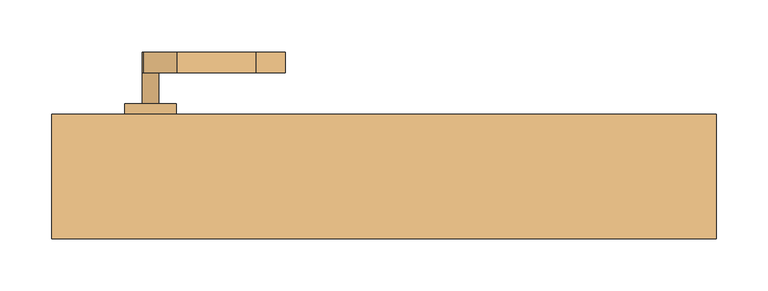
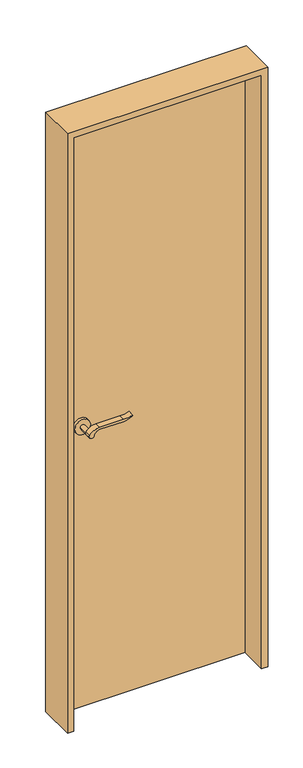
"""IFC4 building model written with IfcOpenShell, lengths in millimetres: door geometry, 木製_片開き_フラッシュ : WD-2 w600h2000."""

from ifc_helpers import new_model, si_unit, point, frame, frame_2d, origin, origin_with_axes, place, context, project, spatial, polyline, circle_curve, trimmed, segment, composite_curve, outline, extrude, source, transform, mapped, element, save


def door_a3db7c72(model_context):
    return source(origin(), model_context, "Body", "SweptSolid", [
        extrude(outline(composite_curve([segment(trimmed(circle_curve(frame_2d((950.0, -225.0)), 8.0), [point((954.6523287, -231.5081363))], [point((950.0, -217.0))], False, "CARTESIAN"), True, "CONTINUOUS"), segment(trimmed(circle_curve(frame_2d((944.8738613, -199.6138099)), 18.1261387), [point((950.0, -217.0))], [point((963.0, -199.6138099))], True, "CARTESIAN"), True, "CONTINUOUS"), segment(polyline([(963.0, -199.6138099), (963.0, -123.3564091)]), True, "CONTINUOUS"), segment(trimmed(circle_curve(frame_2d((1022.2709207, -126.9396612)), 59.3791355), [point((963.0, -123.3564091))], [point((972.2135558, -95.0))], False, "CARTESIAN"), True, "CONTINUOUS"), segment(polyline([(972.2135558, -95.0), (975.0, -95.0)]), True, "CONTINUOUS"), segment(trimmed(circle_curve(frame_2d((1053.2850638, -123.4227909)), 83.2850902), [point((975.0, -95.0))], [point((970.0, -123.3564091))], True, "CARTESIAN"), True, "CONTINUOUS"), segment(polyline([(970.0, -123.3564091), (970.0, -199.6325667)]), True, "CONTINUOUS"), segment(trimmed(circle_curve(frame_2d((932.7555521, -201.3324871)), 37.2832219), [point((970.0, -199.6325667))], [point((954.6523287, -231.5081363))], False, "CARTESIAN"), True, "CONTINUOUS")], self_intersect=False)), frame((0.0, 100.0, 0.0), z_axis=(0.0, 1.0, 0.0), x_axis=(0.0, 0.0, 1.0)), (0.0, 0.0, 1.0), 20.0),
        extrude(outline(composite_curve([segment(trimmed(circle_curve(frame_2d((944.8738682, -199.6138122)), 18.1261318), [point((949.9999903, -217.0))], [point((963.0, -199.6138122))], True, "CARTESIAN"), True, "CONTINUOUS"), segment(polyline([(963.0, -199.6138122), (963.0, -123.3564091)]), True, "CONTINUOUS"), segment(trimmed(circle_curve(frame_2d((1022.2709207, -126.9396612)), 59.3791355), [point((963.0, -123.3564091))], [point((972.2135558, -95.0))], False, "CARTESIAN"), True, "CONTINUOUS"), segment(polyline([(972.2135558, -95.0), (975.0, -95.0)]), True, "CONTINUOUS"), segment(trimmed(circle_curve(frame_2d((1053.2850638, -123.4227909)), 83.2850902), [point((975.0, -95.0))], [point((970.0, -123.3564091))], True, "CARTESIAN"), True, "CONTINUOUS"), segment(polyline([(970.0, -123.3564091), (970.0, -199.6325667)]), True, "CONTINUOUS"), segment(trimmed(circle_curve(frame_2d((932.7555521, -201.3324871)), 37.2832219), [point((970.0, -199.6325667))], [point((954.6523287, -231.5081363))], False, "CARTESIAN"), True, "CONTINUOUS"), segment(trimmed(circle_curve(frame_2d((950.0, -225.0)), 8.0), [point((954.6523287, -231.5081363))], [point((949.9999903, -217.0))], False, "CARTESIAN"), True, "CONTINUOUS")], self_intersect=False)), frame((0.0, -30.0, 0.0), z_axis=(0.0, 1.0, 0.0), x_axis=(0.0, 0.0, 1.0)), (0.0, 0.0, 1.0), 20.0),
        extrude(outline(composite_curve([segment(trimmed(circle_curve(frame_2d((950.0, -225.0)), 8.0), [point((950.0, -233.0))], [point((950.0, -217.0))], False, "CARTESIAN"), True, "CONTINUOUS"), segment(trimmed(circle_curve(frame_2d((950.0, -225.0)), 8.0), [point((950.0, -217.0))], [point((950.0, -233.0))], False, "CARTESIAN"), True, "CONTINUOUS")], self_intersect=False)), frame((0.0, 70.0, 0.0), z_axis=(0.0, 1.0, 0.0), x_axis=(0.0, 0.0, 1.0)), (0.0, 0.0, 1.0), 30.0),
        extrude(outline(composite_curve([segment(trimmed(circle_curve(frame_2d((950.0, -225.0)), 8.0), [point((950.0, -233.0))], [point((950.0, -217.0))], False, "CARTESIAN"), True, "CONTINUOUS"), segment(trimmed(circle_curve(frame_2d((950.0, -225.0)), 8.0), [point((950.0, -217.0))], [point((950.0, -233.0))], False, "CARTESIAN"), True, "CONTINUOUS")], self_intersect=False)), frame((0.0, -10.0, 0.0), z_axis=(0.0, 1.0, 0.0), x_axis=(0.0, 0.0, 1.0)), (0.0, 0.0, 1.0), 30.0),
        extrude(outline(composite_curve([segment(trimmed(circle_curve(frame_2d((950.0, -225.0)), 25.0), [point((950.0, -250.0))], [point((950.0, -200.0))], False, "CARTESIAN"), True, "CONTINUOUS"), segment(trimmed(circle_curve(frame_2d((950.0, -225.0)), 25.0), [point((950.0, -200.0))], [point((950.0, -250.0))], False, "CARTESIAN"), True, "CONTINUOUS")], self_intersect=False)), frame((0.0, 60.0, 0.0), z_axis=(0.0, 1.0, 0.0), x_axis=(0.0, 0.0, 1.0)), (0.0, 0.0, 1.0), 10.0),
        extrude(outline(composite_curve([segment(trimmed(circle_curve(frame_2d((950.0, -225.0)), 25.0), [point((950.0, -250.0))], [point((950.0, -200.0))], False, "CARTESIAN"), True, "CONTINUOUS"), segment(trimmed(circle_curve(frame_2d((950.0, -225.0)), 25.0), [point((950.0, -200.0))], [point((950.0, -250.0))], False, "CARTESIAN"), True, "CONTINUOUS")], self_intersect=False)), frame((0.0, 20.0, 0.0), z_axis=(0.0, 1.0, 0.0), x_axis=(0.0, 0.0, 1.0)), (0.0, 0.0, 1.0), 10.0),
        extrude(outline(polyline([(2020.0, -320.0), (0.0, -320.0), (0.0, -300.0), (2000.0, -300.0), (2000.0, 300.0), (0.0, 300.0), (0.0, 320.0), (2020.0, 320.0), (2020.0, -320.0)])), frame((0.0, -60.0, 0.0), z_axis=(0.0, 1.0, 0.0), x_axis=(0.0, 0.0, 1.0)), (0.0, 0.0, 1.0), 120.0),
        extrude(outline(polyline([(300.0, 30.0), (-300.0, 30.0), (-300.0, 60.0), (300.0, 60.0), (300.0, 30.0)])), origin_with_axes(), (0.0, 0.0, 1.0), 2000.0),
    ])


if __name__ == "__main__":
    model = new_model("IFC4")
    model_context = context("Model", 3, world=origin())
    ifc_project = project(units=[si_unit("LENGTHUNIT", "METRE", prefix="MILLI")], contexts=[model_context])
    site = spatial("IfcSite", under=ifc_project)
    building = spatial("IfcBuilding", under=site)
    placement = place(None, origin())
    door_shape = door_a3db7c72(model_context)
    element("IfcDoor", 1, ObjectType="木製_片開き_フラッシュ : WD-2 w600h2000", at=placement, inside=building, context=model_context, shape_type="MappedRepresentation", body=[
        mapped(door_shape, transform((0.0, 0.0, 0.0), x_axis=(1.0, 0.0, 0.0), y_axis=(0.0, 1.0, 0.0), z_axis=(0.0, 0.0, 1.0))),
    ])
    save(model, "model.ifc")
